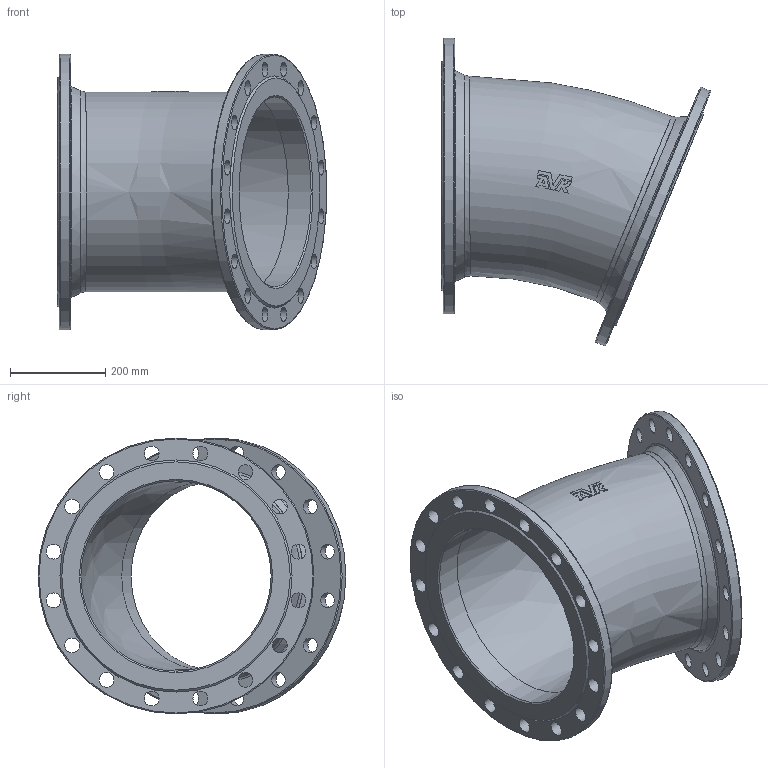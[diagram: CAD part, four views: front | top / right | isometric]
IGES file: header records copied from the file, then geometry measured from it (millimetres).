
Start section: SolidWorks IGES file using analytic representation for surfaces
Global section: file name: \\avksan2\techshare\PBM outline export from Enovia\O_712_0210_DN400_1X_REV01.igs; native system: SolidWorks 2022; preprocessor: SolidWorks 2022; author: pbm; date: 240815.142544; units: millimetre
Bounding box: 566.47 x 647.24 x 580 mm (x, y, z)
Surface area: 2212505.7 mm2 (no closed solid volume)
Topology: 0 solids, 0 shells, 100 faces, 495 edges, 442 vertices
Faces by surface type: revolution 57, bspline 43
